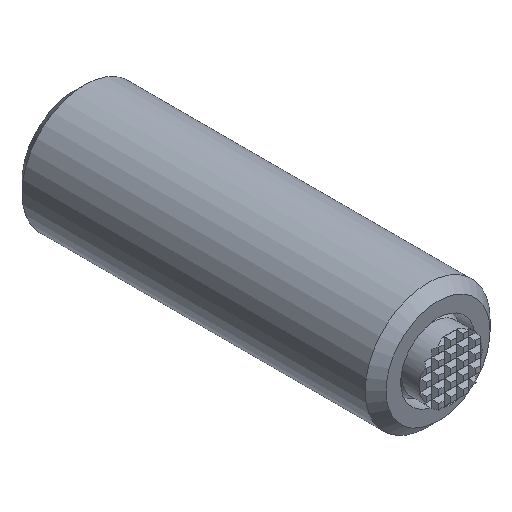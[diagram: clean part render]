
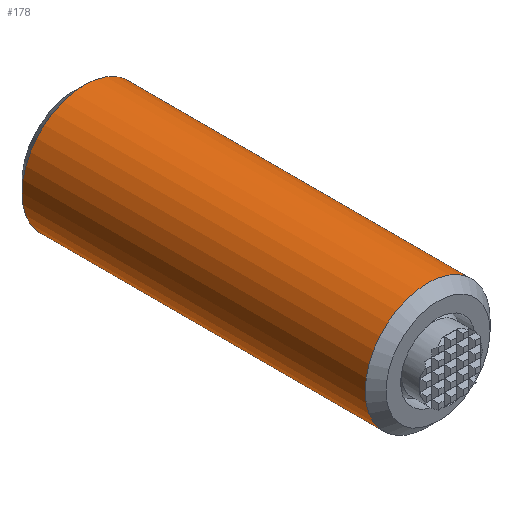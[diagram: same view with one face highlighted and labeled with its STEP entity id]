
A CAD part, isometric view. The second image highlights one B-rep face of the part: STEP entity #178.
In plain terms, the highlighted cylindrical face has radius 6 mm (diameter 12 mm), a full revolution.
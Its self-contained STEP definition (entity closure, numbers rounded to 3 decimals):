
#178 = ADVANCED_FACE( '', ( #357, #358 ), #359, .T. );
#357 = FACE_OUTER_BOUND( '', #691, .T. );
#358 = FACE_OUTER_BOUND( '', #692, .T. );
#359 = CYLINDRICAL_SURFACE( '', #693, 6. );
#691 = EDGE_LOOP( '', ( #1053 ) );
#692 = EDGE_LOOP( '', ( #1054 ) );
#693 = AXIS2_PLACEMENT_3D( '', #1055, #1056, #1057 );
#1053 = ORIENTED_EDGE( '', *, *, #2180, .F. );
#1054 = ORIENTED_EDGE( '', *, *, #2163, .T. );
#1055 = CARTESIAN_POINT( '', ( 0., 0., 0. ) );
#1056 = DIRECTION( '', ( 0., 1., 0. ) );
#1057 = DIRECTION( '', ( 0., 0., -1. ) );
#2163 = EDGE_CURVE( '', #2502, #2502, #2503, .T. );
#2180 = EDGE_CURVE( '', #2534, #2534, #2535, .T. );
#2502 = VERTEX_POINT( '', #3028 );
#2503 = CIRCLE( '', #3029, 6. );
#2534 = VERTEX_POINT( '', #3071 );
#2535 = CIRCLE( '', #3072, 6. );
#3028 = CARTESIAN_POINT( '', ( 0., 34., -6. ) );
#3029 = AXIS2_PLACEMENT_3D( '', #3828, #3829, #3830 );
#3071 = CARTESIAN_POINT( '', ( 0., 1., -6. ) );
#3072 = AXIS2_PLACEMENT_3D( '', #3857, #3858, #3859 );
#3828 = CARTESIAN_POINT( '', ( 0., 34., 0. ) );
#3829 = DIRECTION( '', ( 0., -1., 0. ) );
#3830 = DIRECTION( '', ( 0., 0., -1. ) );
#3857 = CARTESIAN_POINT( '', ( 0., 1., 0. ) );
#3858 = DIRECTION( '', ( 0., -1., 0. ) );
#3859 = DIRECTION( '', ( 0., 0., -1. ) );
